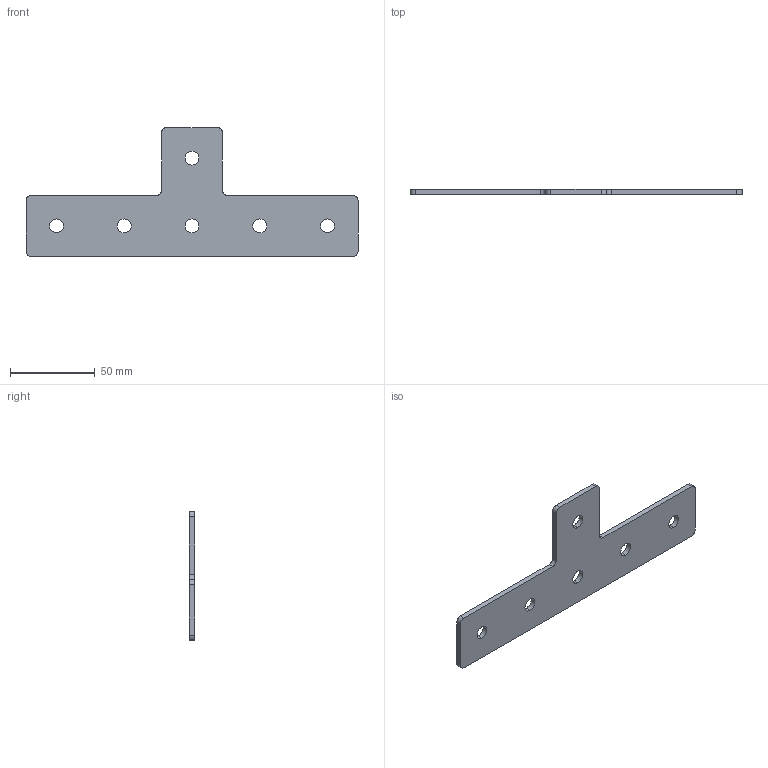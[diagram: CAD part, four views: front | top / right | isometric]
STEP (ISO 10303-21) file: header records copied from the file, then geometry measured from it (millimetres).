
FILE_DESCRIPTION (( 'STEP AP203' ), '1' );
FILE_NAME ('ﾒ-6-40.STEP', '2016-07-22T10:15:19', ( '' ), ( '' ), 'SwSTEP 2.0', 'SolidWorks 2014', '' );
FILE_SCHEMA (( 'CONFIG_CONTROL_DESIGN' ));
Length unit declared in the file: millimetre
Products named in the file (1): ﾒ-6-40
Bounding box: 196 x 3 x 76 mm (x, y, z)
Surface area: 18407.6 mm2 (no closed solid volume)
Topology: 0 solids, 1 shells, 30 faces, 84 edges, 56 vertices
Faces by surface type: cylinder 20, plane 10
Entity records: 1089 total; most frequent: DIRECTION 186, CARTESIAN_POINT 171, ORIENTED_EDGE 168, EDGE_CURVE 84, AXIS2_PLACEMENT_3D 71, VERTEX_POINT 56, VECTOR 44, LINE 44
